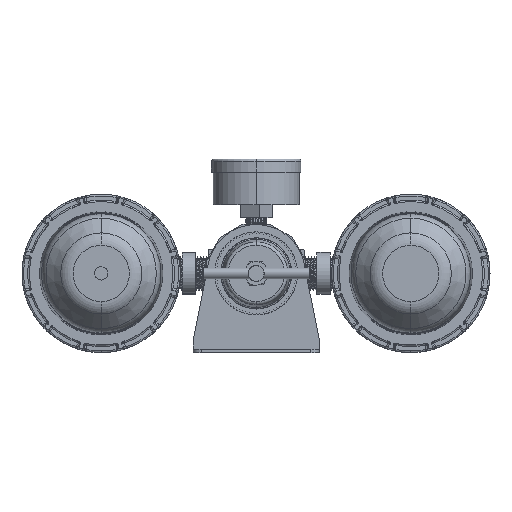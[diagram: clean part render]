
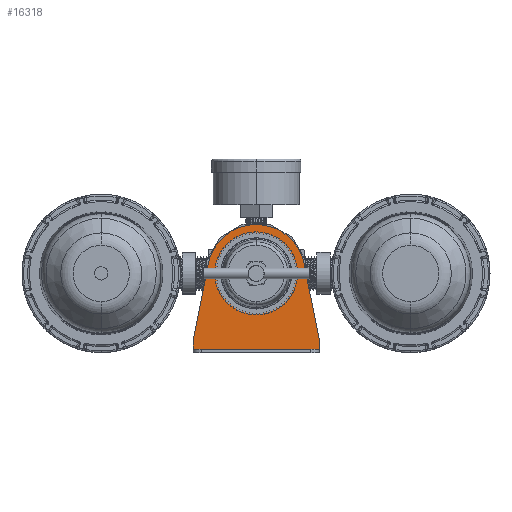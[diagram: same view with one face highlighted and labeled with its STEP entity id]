
A CAD part, front view. The second image highlights one B-rep face of the part: STEP entity #16318.
In plain terms, the highlighted planar face has unit normal (0, -1, 0) as drawn and (0, 1, 0) by its records, which use the part's own axes.
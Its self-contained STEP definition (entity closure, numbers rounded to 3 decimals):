
#1885 = AXIS2_PLACEMENT_3D ( 'NONE', #55908, #5600, #67287 ) ;
#1956 = DIRECTION ( 'NONE',  ( 0., 0., -1. ) ) ;
#2816 = DIRECTION ( 'NONE',  ( 0., 0., 1. ) ) ;
#4730 = DIRECTION ( 'NONE',  ( 0., 1., 0. ) ) ;
#5187 = CARTESIAN_POINT ( 'NONE',  ( -28.937, 2.3, 5.734 ) ) ;
#5600 = DIRECTION ( 'NONE',  ( 0., 1., 0. ) ) ;
#5622 = DIRECTION ( 'NONE',  ( 0., 1., 0. ) ) ;
#8920 = CARTESIAN_POINT ( 'NONE',  ( 0., 2.3, 24. ) ) ;
#8947 = VERTEX_POINT ( 'NONE', #8920 ) ;
#10230 = VECTOR ( 'NONE', #39859, 1000. ) ;
#11665 = ORIENTED_EDGE ( 'NONE', *, *, #18392, .F. ) ;
#11696 = CARTESIAN_POINT ( 'NONE',  ( -38., 2.3, -40. ) ) ;
#12049 = EDGE_CURVE ( 'NONE', #36217, #23095, #26299, .T. ) ;
#12060 = CARTESIAN_POINT ( 'NONE',  ( 0., 2.3, 0. ) ) ;
#12301 = DIRECTION ( 'NONE',  ( 0.194, 0., -0.981 ) ) ;
#12804 = ORIENTED_EDGE ( 'NONE', *, *, #12049, .T. ) ;
#13684 = ORIENTED_EDGE ( 'NONE', *, *, #50800, .T. ) ;
#15365 = CARTESIAN_POINT ( 'NONE',  ( 0., 2.3, 0. ) ) ;
#16318 = ADVANCED_FACE ( 'NONE', ( #36416, #32884 ), #39220, .T. ) ;
#16710 = ORIENTED_EDGE ( 'NONE', *, *, #50147, .T. ) ;
#16717 = CARTESIAN_POINT ( 'NONE',  ( 28.937, 2.3, 5.734 ) ) ;
#17376 = VERTEX_POINT ( 'NONE', #16717 ) ;
#17601 = VECTOR ( 'NONE', #66639, 1000. ) ;
#17702 = DIRECTION ( 'NONE',  ( 0., 0., 1. ) ) ;
#18392 = EDGE_CURVE ( 'NONE', #21421, #23095, #68801, .T. ) ;
#18481 = CARTESIAN_POINT ( 'NONE',  ( 38., 2.3, -48. ) ) ;
#18500 = EDGE_CURVE ( 'NONE', #67176, #17376, #53759, .T. ) ;
#18729 = EDGE_LOOP ( 'NONE', ( #64356, #52194 ) ) ;
#19915 = ORIENTED_EDGE ( 'NONE', *, *, #18500, .T. ) ;
#21255 = DIRECTION ( 'NONE',  ( 0., 1., 0. ) ) ;
#21421 = VERTEX_POINT ( 'NONE', #66626 ) ;
#21964 = DIRECTION ( 'NONE',  ( 0., 0., 1. ) ) ;
#23095 = VERTEX_POINT ( 'NONE', #56637 ) ;
#26299 = LINE ( 'NONE', #18481, #54528 ) ;
#27538 = CARTESIAN_POINT ( 'NONE',  ( 38., 2.3, -40. ) ) ;
#28337 = VERTEX_POINT ( 'NONE', #54942 ) ;
#29801 = VERTEX_POINT ( 'NONE', #50349 ) ;
#32884 = FACE_OUTER_BOUND ( 'NONE', #50076, .T. ) ;
#33071 = AXIS2_PLACEMENT_3D ( 'NONE', #43752, #4730, #21964 ) ;
#33120 = CARTESIAN_POINT ( 'NONE',  ( 0., 2.3, -45.7 ) ) ;
#34986 = VECTOR ( 'NONE', #12301, 1000. ) ;
#36217 = VERTEX_POINT ( 'NONE', #27538 ) ;
#36416 = FACE_BOUND ( 'NONE', #18729, .T. ) ;
#38202 = EDGE_CURVE ( 'NONE', #28337, #8947, #39120, .T. ) ;
#39120 = CIRCLE ( 'NONE', #33071, 24. ) ;
#39220 = PLANE ( 'NONE',  #1885 ) ;
#39859 = DIRECTION ( 'NONE',  ( 0.194, 0., 0.981 ) ) ;
#42028 = CIRCLE ( 'NONE', #51204, 24. ) ;
#43752 = CARTESIAN_POINT ( 'NONE',  ( 0., 2.3, 0. ) ) ;
#43799 = LINE ( 'NONE', #11696, #10230 ) ;
#44003 = DIRECTION ( 'NONE',  ( 0., 0., 1. ) ) ;
#50076 = EDGE_LOOP ( 'NONE', ( #11665, #73094, #16710, #19915, #13684, #12804 ) ) ;
#50147 = EDGE_CURVE ( 'NONE', #29801, #67176, #43799, .T. ) ;
#50349 = CARTESIAN_POINT ( 'NONE',  ( -38., 2.3, -40. ) ) ;
#50800 = EDGE_CURVE ( 'NONE', #17376, #36217, #71087, .T. ) ;
#51204 = AXIS2_PLACEMENT_3D ( 'NONE', #12060, #5622, #17702 ) ;
#51586 = AXIS2_PLACEMENT_3D ( 'NONE', #15365, #21255, #44003 ) ;
#52194 = ORIENTED_EDGE ( 'NONE', *, *, #38202, .F. ) ;
#53347 = CARTESIAN_POINT ( 'NONE',  ( -38., 2.3, -48. ) ) ;
#53759 = CIRCLE ( 'NONE', #51586, 29.5 ) ;
#54528 = VECTOR ( 'NONE', #1956, 1000. ) ;
#54942 = CARTESIAN_POINT ( 'NONE',  ( 0., 2.3, -24. ) ) ;
#55908 = CARTESIAN_POINT ( 'NONE',  ( 0., 2.3, 0. ) ) ;
#56637 = CARTESIAN_POINT ( 'NONE',  ( 38., 2.3, -45.7 ) ) ;
#59312 = EDGE_CURVE ( 'NONE', #21421, #29801, #68681, .T. ) ;
#61610 = VECTOR ( 'NONE', #2816, 1000. ) ;
#64356 = ORIENTED_EDGE ( 'NONE', *, *, #65126, .F. ) ;
#65126 = EDGE_CURVE ( 'NONE', #8947, #28337, #42028, .T. ) ;
#66626 = CARTESIAN_POINT ( 'NONE',  ( -38., 2.3, -45.7 ) ) ;
#66639 = DIRECTION ( 'NONE',  ( 1., 0., 0. ) ) ;
#67176 = VERTEX_POINT ( 'NONE', #5187 ) ;
#67287 = DIRECTION ( 'NONE',  ( 0., 0., 1. ) ) ;
#68681 = LINE ( 'NONE', #53347, #61610 ) ;
#68801 = LINE ( 'NONE', #33120, #17601 ) ;
#69015 = CARTESIAN_POINT ( 'NONE',  ( 38., 2.3, -40. ) ) ;
#71087 = LINE ( 'NONE', #69015, #34986 ) ;
#73094 = ORIENTED_EDGE ( 'NONE', *, *, #59312, .T. ) ;
